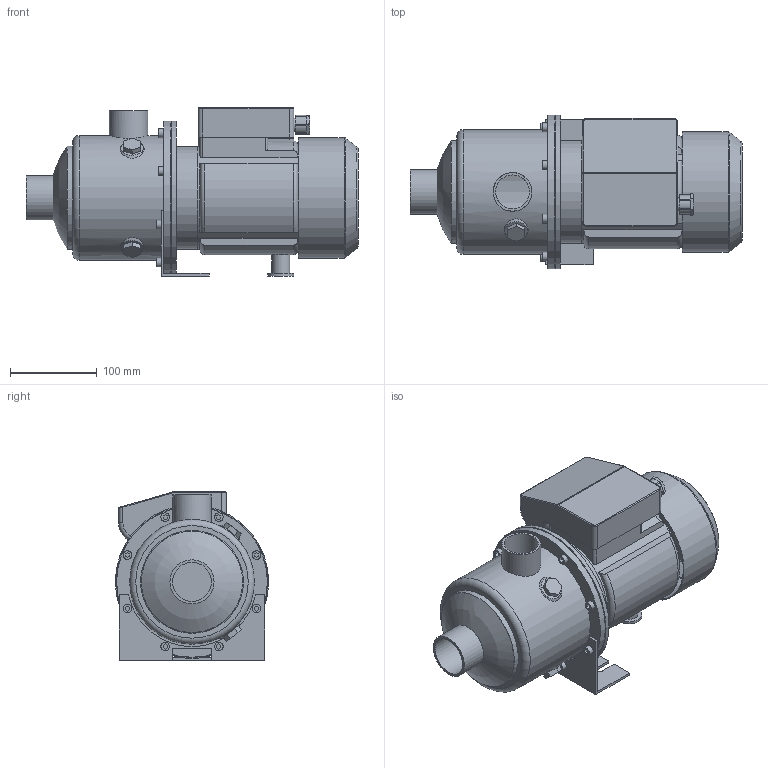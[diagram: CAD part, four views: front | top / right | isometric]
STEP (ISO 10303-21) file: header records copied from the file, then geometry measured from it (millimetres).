
FILE_DESCRIPTION(/* description */ ('Unknown'),/* implementation_level */ '2;1');
FILE_NAME(/* name */ 'MH 9 [2] M',/* time_stamp */ '2026-07-10T15:05:10+02:00',/* author */ ('Unknown'),/* organization */ ('Unknown'),/* preprocessor_version */ 'ST-DEVELOPER v20',/* originating_system */ 'Solid Edge',/* authorisation */ 'Unknown');
FILE_SCHEMA (('AUTOMOTIVE_DESIGN {1 0 10303 214 3 1 1}'));
Length unit declared in the file: millimetre
Products named in the file (10): MH 9 [2] M; Flangia motore Tonda M71; Corpo MH 9 [2-3]; Mot_Wendy_MEC71_055-075_M; carcassa MEC 71-M_Wendy; Copriventola MEC 71-Wendy; Basetta MEC 71 M-Wendy_new; 1; Piedino MEC 71 int.90; Staffa 3-5-9 int.90
Assembly tree (9 placements, depth 3):
  MH 9 [2] M
    Flangia motore Tonda M71
    Corpo MH 9 [2-3]
    Mot_Wendy_MEC71_055-075_M
      carcassa MEC 71-M_Wendy
      Copriventola MEC 71-Wendy
      Basetta MEC 71 M-Wendy_new
      1
    Piedino MEC 71 int.90
    Staffa 3-5-9 int.90
Bounding box: 382 x 176.5 x 193.5 mm (x, y, z)
Volume: 1721737.9 mm3; surface area: 502842.8 mm2
Topology: 8 solids, 8 shells, 287 faces, 674 edges, 445 vertices
Faces by surface type: plane 169, cylinder 81, torus 19, cone 14, sphere 2, bspline 2
Full cylindrical faces by diameter (mm): 7 x4, 10 x9, 12 x1, 15 x1, 16.5 x1, 21 x1, 30 x1, 38.952 x1, 44.5 x1, 44.845 x1, 50.8 x1, 110 x1, 114 x3, 116.1 x1, 118 x2, 118.5 x1, 136.5 x1, 138.5 x1, 141.1 x1, 143.5 x1, 173.5 x1, 174.1 x1, 176.5 x2
Entity records: 9274 total; most frequent: CARTESIAN_POINT 1730, DIRECTION 1328, ORIENTED_EDGE 1176, EDGE_CURVE 588, AXIS2_PLACEMENT_3D 491, VERTEX_POINT 415, EDGE_LOOP 395, FACE_BOUND 395
